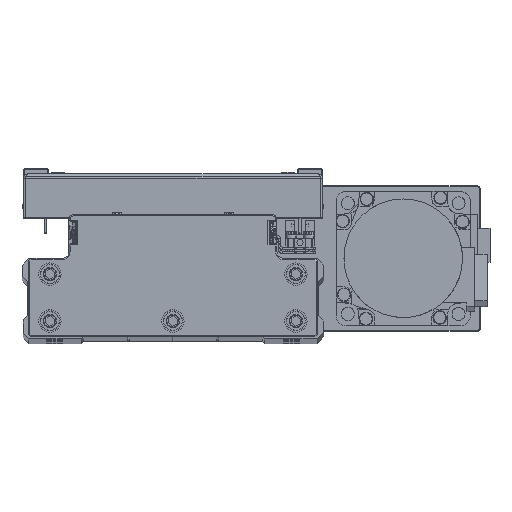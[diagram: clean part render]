
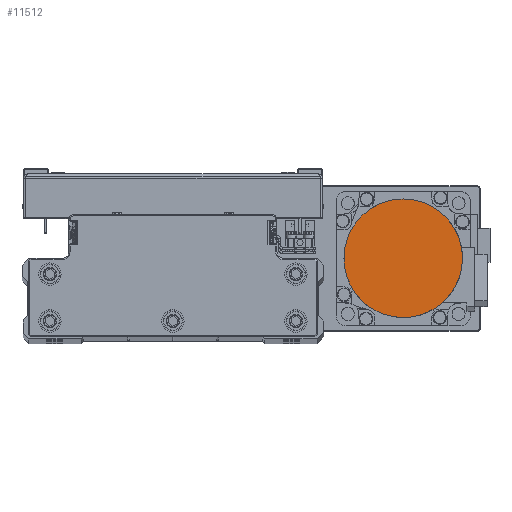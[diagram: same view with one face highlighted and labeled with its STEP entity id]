
A CAD part, top view. The second image highlights one B-rep face of the part: STEP entity #11512.
In plain terms, the highlighted planar face has unit normal (0, 0, 1) as drawn and (0, 0, -1) by its records, which use the part's own axes.
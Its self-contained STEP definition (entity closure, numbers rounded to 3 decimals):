
#753 = CARTESIAN_POINT ( 'NONE',  ( -22.998, -13.28, -109.7 ) ) ;
#968 = CARTESIAN_POINT ( 'NONE',  ( 6.871, -25.652, -109.7 ) ) ;
#1187 = CARTESIAN_POINT ( 'NONE',  ( 26.5, -1.734, -109.7 ) ) ;
#1739 = CARTESIAN_POINT ( 'NONE',  ( 17.512, 19.965, -109.7 ) ) ;
#1977 = CARTESIAN_POINT ( 'NONE',  ( -13.28, 22.998, -109.7 ) ) ;
#2865 = PLANE ( 'NONE',  #16102 ) ;
#4167 = CARTESIAN_POINT ( 'NONE',  ( -25.652, -6.871, -109.7 ) ) ;
#4381 = CARTESIAN_POINT ( 'NONE',  ( -1.734, -26.5, -109.7 ) ) ;
#4597 = CARTESIAN_POINT ( 'NONE',  ( 25.147, -8.539, -109.7 ) ) ;
#4744 = EDGE_LOOP ( 'NONE', ( #9157, #32989 ) ) ;
#5149 = CARTESIAN_POINT ( 'NONE',  ( 22.998, 13.28, -109.7 ) ) ;
#5374 = CARTESIAN_POINT ( 'NONE',  ( -6.871, 25.652, -109.7 ) ) ;
#5606 = CARTESIAN_POINT ( 'NONE',  ( -26.5, 1.734, -109.7 ) ) ;
#7557 = CARTESIAN_POINT ( 'NONE',  ( -26.5, 0., -109.7 ) ) ;
#7786 = CARTESIAN_POINT ( 'NONE',  ( -8.539, -25.147, -109.7 ) ) ;
#7877 = VERTEX_POINT ( 'NONE', #36077 ) ;
#7995 = CARTESIAN_POINT ( 'NONE',  ( 21.07, -16.165, -109.7 ) ) ;
#8549 = CARTESIAN_POINT ( 'NONE',  ( 25.652, 6.871, -109.7 ) ) ;
#8734 = EDGE_CURVE ( 'NONE', #7877, #13040, #13189, .T. ) ;
#8765 = CARTESIAN_POINT ( 'NONE',  ( 1.734, 26.5, -109.7 ) ) ;
#8924 = EDGE_CURVE ( 'NONE', #13040, #7877, #33201, .T. ) ;
#8987 = CARTESIAN_POINT ( 'NONE',  ( -25.147, 8.539, -109.7 ) ) ;
#9157 = ORIENTED_EDGE ( 'NONE', *, *, #8734, .F. ) ;
#11162 = CARTESIAN_POINT ( 'NONE',  ( -16.165, -21.07, -109.7 ) ) ;
#11392 = CARTESIAN_POINT ( 'NONE',  ( 16.165, -21.07, -109.7 ) ) ;
#11512 = ADVANCED_FACE ( 'NONE', ( #33930 ), #2865, .F. ) ;
#11941 = CARTESIAN_POINT ( 'NONE',  ( 26.5, 0., -109.7 ) ) ;
#12168 = CARTESIAN_POINT ( 'NONE',  ( 8.539, 25.147, -109.7 ) ) ;
#12387 = CARTESIAN_POINT ( 'NONE',  ( -21.07, 16.165, -109.7 ) ) ;
#13040 = VERTEX_POINT ( 'NONE', #26387 ) ;
#13189 = B_SPLINE_CURVE_WITH_KNOTS ( 'NONE', 3,
 ( #11941, #25767, #39613, #8549, #22379, #36194, #5149, #18957, #32807, #1739, #15565, #29409, #43265, #12168, #25989, #39829, #8765, #22603, #36424, #5374, #19188, #33038, #1977, #15789, #29627, #43484, #12387, #26211, #40051, #8987, #22823, #36653, #5606, #19415 ),
 .UNSPECIFIED., .F., .F.,
 ( 4, 2, 2, 2, 2, 2, 2, 2, 2, 2, 2, 2, 2, 2, 2, 2, 4 ),
 ( 0., 0.062, 0.125, 0.187, 0.25, 0.312, 0.375, 0.437, 0.5, 0.562, 0.625, 0.687, 0.75, 0.813, 0.875, 0.938, 1. ),
 .UNSPECIFIED. ) ;
#14582 = CARTESIAN_POINT ( 'NONE',  ( -21.07, -16.165, -109.7 ) ) ;
#14791 = CARTESIAN_POINT ( 'NONE',  ( 8.539, -25.147, -109.7 ) ) ;
#15013 = CARTESIAN_POINT ( 'NONE',  ( 26.5, 0., -109.7 ) ) ;
#15565 = CARTESIAN_POINT ( 'NONE',  ( 16.165, 21.07, -109.7 ) ) ;
#15789 = CARTESIAN_POINT ( 'NONE',  ( -16.165, 21.07, -109.7 ) ) ;
#16102 = AXIS2_PLACEMENT_3D ( 'NONE', #16676, #30526, #44373 ) ;
#16676 = CARTESIAN_POINT ( 'NONE',  ( 0., 0., -109.7 ) ) ;
#17972 = CARTESIAN_POINT ( 'NONE',  ( -25.147, -8.539, -109.7 ) ) ;
#18181 = CARTESIAN_POINT ( 'NONE',  ( 1.734, -26.5, -109.7 ) ) ;
#18400 = CARTESIAN_POINT ( 'NONE',  ( 25.652, -6.871, -109.7 ) ) ;
#18957 = CARTESIAN_POINT ( 'NONE',  ( 21.07, 16.165, -109.7 ) ) ;
#19188 = CARTESIAN_POINT ( 'NONE',  ( -8.539, 25.147, -109.7 ) ) ;
#19415 = CARTESIAN_POINT ( 'NONE',  ( -26.5, 0., -109.7 ) ) ;
#21376 = CARTESIAN_POINT ( 'NONE',  ( -26.5, -1.734, -109.7 ) ) ;
#21600 = CARTESIAN_POINT ( 'NONE',  ( -6.871, -25.652, -109.7 ) ) ;
#21818 = CARTESIAN_POINT ( 'NONE',  ( 22.998, -13.28, -109.7 ) ) ;
#22379 = CARTESIAN_POINT ( 'NONE',  ( 25.147, 8.539, -109.7 ) ) ;
#22603 = CARTESIAN_POINT ( 'NONE',  ( -1.734, 26.5, -109.7 ) ) ;
#22823 = CARTESIAN_POINT ( 'NONE',  ( -25.652, 6.871, -109.7 ) ) ;
#24990 = CARTESIAN_POINT ( 'NONE',  ( -13.28, -22.998, -109.7 ) ) ;
#25212 = CARTESIAN_POINT ( 'NONE',  ( 17.512, -19.965, -109.7 ) ) ;
#25767 = CARTESIAN_POINT ( 'NONE',  ( 26.5, 1.734, -109.7 ) ) ;
#25989 = CARTESIAN_POINT ( 'NONE',  ( 6.871, 25.652, -109.7 ) ) ;
#26211 = CARTESIAN_POINT ( 'NONE',  ( -22.998, 13.28, -109.7 ) ) ;
#26387 = CARTESIAN_POINT ( 'NONE',  ( -26.5, 0., -109.7 ) ) ;
#28399 = CARTESIAN_POINT ( 'NONE',  ( -19.965, -17.512, -109.7 ) ) ;
#28619 = CARTESIAN_POINT ( 'NONE',  ( 11.744, -23.819, -109.7 ) ) ;
#29409 = CARTESIAN_POINT ( 'NONE',  ( 13.28, 22.998, -109.7 ) ) ;
#29627 = CARTESIAN_POINT ( 'NONE',  ( -17.512, 19.965, -109.7 ) ) ;
#30526 = DIRECTION ( 'NONE',  ( 0., 0., 1. ) ) ;
#31815 = CARTESIAN_POINT ( 'NONE',  ( -23.819, -11.744, -109.7 ) ) ;
#32028 = CARTESIAN_POINT ( 'NONE',  ( 3.469, -26.329, -109.7 ) ) ;
#32254 = CARTESIAN_POINT ( 'NONE',  ( 26.329, -3.469, -109.7 ) ) ;
#32807 = CARTESIAN_POINT ( 'NONE',  ( 19.965, 17.512, -109.7 ) ) ;
#32989 = ORIENTED_EDGE ( 'NONE', *, *, #8924, .F. ) ;
#33038 = CARTESIAN_POINT ( 'NONE',  ( -11.744, 23.819, -109.7 ) ) ;
#33201 = B_SPLINE_CURVE_WITH_KNOTS ( 'NONE', 3,
 ( #7557, #21376, #35220, #4167, #17972, #31815, #753, #14582, #28399, #42237, #11162, #24990, #38847, #7786, #21600, #35430, #4381, #18181, #32028, #968, #14791, #28619, #42466, #11392, #25212, #39050, #7995, #21818, #35638, #4597, #18400, #32254, #1187, #15013 ),
 .UNSPECIFIED., .F., .F.,
 ( 4, 2, 2, 2, 2, 2, 2, 2, 2, 2, 2, 2, 2, 2, 2, 2, 4 ),
 ( 0., 0.063, 0.125, 0.188, 0.25, 0.312, 0.375, 0.437, 0.5, 0.562, 0.625, 0.687, 0.75, 0.813, 0.875, 0.938, 1. ),
 .UNSPECIFIED. ) ;
#33930 = FACE_OUTER_BOUND ( 'NONE', #4744, .T. ) ;
#35220 = CARTESIAN_POINT ( 'NONE',  ( -26.329, -3.469, -109.7 ) ) ;
#35430 = CARTESIAN_POINT ( 'NONE',  ( -3.469, -26.329, -109.7 ) ) ;
#35638 = CARTESIAN_POINT ( 'NONE',  ( 23.819, -11.744, -109.7 ) ) ;
#36077 = CARTESIAN_POINT ( 'NONE',  ( 26.5, 0., -109.7 ) ) ;
#36194 = CARTESIAN_POINT ( 'NONE',  ( 23.819, 11.744, -109.7 ) ) ;
#36424 = CARTESIAN_POINT ( 'NONE',  ( -3.469, 26.329, -109.7 ) ) ;
#36653 = CARTESIAN_POINT ( 'NONE',  ( -26.329, 3.469, -109.7 ) ) ;
#38847 = CARTESIAN_POINT ( 'NONE',  ( -11.744, -23.819, -109.7 ) ) ;
#39050 = CARTESIAN_POINT ( 'NONE',  ( 19.965, -17.512, -109.7 ) ) ;
#39613 = CARTESIAN_POINT ( 'NONE',  ( 26.329, 3.469, -109.7 ) ) ;
#39829 = CARTESIAN_POINT ( 'NONE',  ( 3.469, 26.329, -109.7 ) ) ;
#40051 = CARTESIAN_POINT ( 'NONE',  ( -23.819, 11.744, -109.7 ) ) ;
#42237 = CARTESIAN_POINT ( 'NONE',  ( -17.512, -19.965, -109.7 ) ) ;
#42466 = CARTESIAN_POINT ( 'NONE',  ( 13.28, -22.998, -109.7 ) ) ;
#43265 = CARTESIAN_POINT ( 'NONE',  ( 11.744, 23.819, -109.7 ) ) ;
#43484 = CARTESIAN_POINT ( 'NONE',  ( -19.965, 17.512, -109.7 ) ) ;
#44373 = DIRECTION ( 'NONE',  ( 1., 0., 0. ) ) ;
